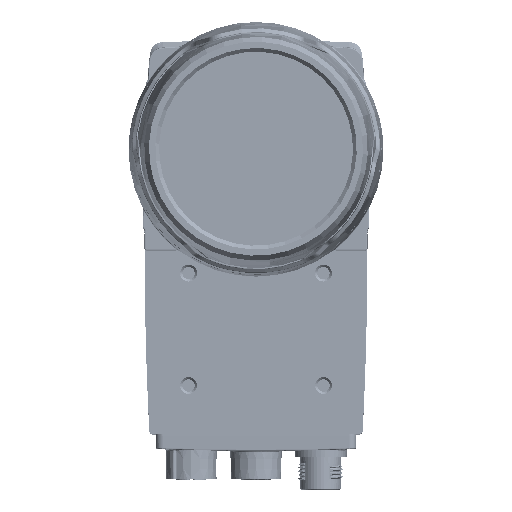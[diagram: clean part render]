
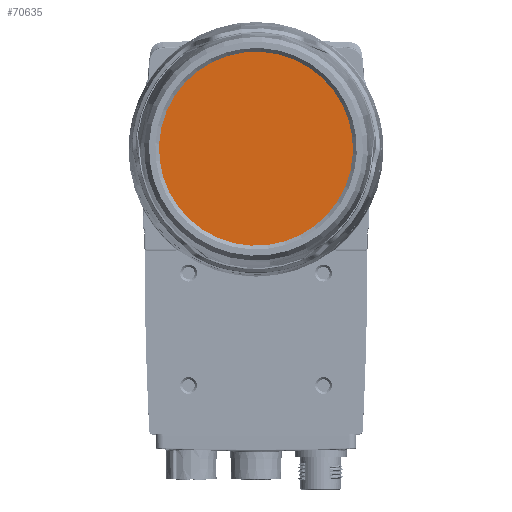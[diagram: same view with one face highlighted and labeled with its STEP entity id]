
A CAD part, top view. The second image highlights one B-rep face of the part: STEP entity #70635.
In plain terms, the highlighted planar face has unit normal (0, 0, 1).
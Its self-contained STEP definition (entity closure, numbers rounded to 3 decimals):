
#1005 = CARTESIAN_POINT ( 'NONE',  ( 0., 0., 248.652 ) ) ;
#22989 = DIRECTION ( 'NONE',  ( 0., 0., 1. ) ) ;
#26091 = DIRECTION ( 'NONE',  ( 0.999, -0.034, 0. ) ) ;
#30948 = PLANE ( 'NONE',  #291750 ) ;
#34600 = FACE_OUTER_BOUND ( 'NONE', #84455, .T. ) ;
#35566 = AXIS2_PLACEMENT_3D ( 'NONE', #87104, #22989, #42086 ) ;
#37423 = CARTESIAN_POINT ( 'NONE',  ( -28.609, 0.963, 248.652 ) ) ;
#42086 = DIRECTION ( 'NONE',  ( 0.999, -0.034, 0. ) ) ;
#54020 = DIRECTION ( 'NONE',  ( 0., 0., 1. ) ) ;
#57118 = CIRCLE ( 'NONE', #35566, 28.625 ) ;
#70635 = ADVANCED_FACE ( 'NONE', ( #34600 ), #30948, .T. ) ;
#73125 = EDGE_CURVE ( 'NONE', #136438, #279918, #57118, .T. ) ;
#77128 = CARTESIAN_POINT ( 'NONE',  ( 28.609, -0.963, 248.652 ) ) ;
#84455 = EDGE_LOOP ( 'NONE', ( #155661, #116394 ) ) ;
#87104 = CARTESIAN_POINT ( 'NONE',  ( 0., 0., 248.652 ) ) ;
#100695 = EDGE_CURVE ( 'NONE', #279918, #136438, #207085, .T. ) ;
#116394 = ORIENTED_EDGE ( 'NONE', *, *, #73125, .T. ) ;
#136438 = VERTEX_POINT ( 'NONE', #77128 ) ;
#145081 = AXIS2_PLACEMENT_3D ( 'NONE', #1005, #233340, #26091 ) ;
#147022 = DIRECTION ( 'NONE',  ( 0.999, -0.034, 0. ) ) ;
#155661 = ORIENTED_EDGE ( 'NONE', *, *, #100695, .T. ) ;
#207085 = CIRCLE ( 'NONE', #145081, 28.625 ) ;
#233340 = DIRECTION ( 'NONE',  ( 0., 0., 1. ) ) ;
#239176 = CARTESIAN_POINT ( 'NONE',  ( 0., 0., 248.652 ) ) ;
#279918 = VERTEX_POINT ( 'NONE', #37423 ) ;
#291750 = AXIS2_PLACEMENT_3D ( 'NONE', #239176, #54020, #147022 ) ;
